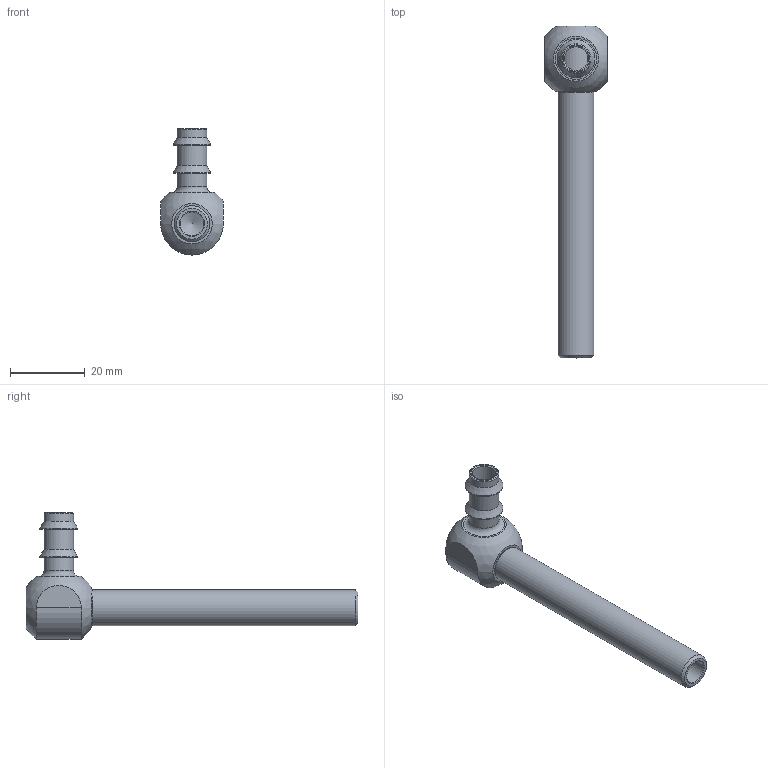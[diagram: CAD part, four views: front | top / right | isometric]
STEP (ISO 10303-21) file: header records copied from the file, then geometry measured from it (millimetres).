
FILE_DESCRIPTION(/* description */ (''),/* implementation_level */ '2;1');
FILE_NAME(/* name */ 'C:/Users/drich/Desktop/WJ18-L v1.step',/* time_stamp */ '2019-12-29T15:34:58-06:00',/* author */ (''),/* organization */ (''),/* preprocessor_version */ 'ST-DEVELOPER v18',/* originating_system */ 'Autodesk Translation Framework v8.12.0.6',/* authorisation */ '');
FILE_SCHEMA (('AUTOMOTIVE_DESIGN { 1 0 10303 214 3 1 1 }'));
Length unit declared in the file: inch
Products named in the file (2): WJ18-L; WJ18-L SHAFT
Assembly tree (1 placements, depth 2):
  WJ18-L
    WJ18-L SHAFT
Bounding box: 16.76 x 88.9 x 33.78 mm (x, y, z)
Volume: 8452.9 mm3; surface area: 5775.2 mm2
Topology: 2 solids, 2 shells, 38 faces, 99 edges, 72 vertices
Faces by surface type: plane 18, cylinder 11, cone 5, torus 3, sphere 1
Full cylindrical faces by diameter (mm): 6.35 x2, 7.925 x3, 9.525 x2, 9.621 x1, 10.109 x2
Entity records: 1324 total; most frequent: CARTESIAN_POINT 245, DIRECTION 239, ORIENTED_EDGE 196, AXIS2_PLACEMENT_3D 102, EDGE_CURVE 98, VERTEX_POINT 72, CIRCLE 61, EDGE_LOOP 50
